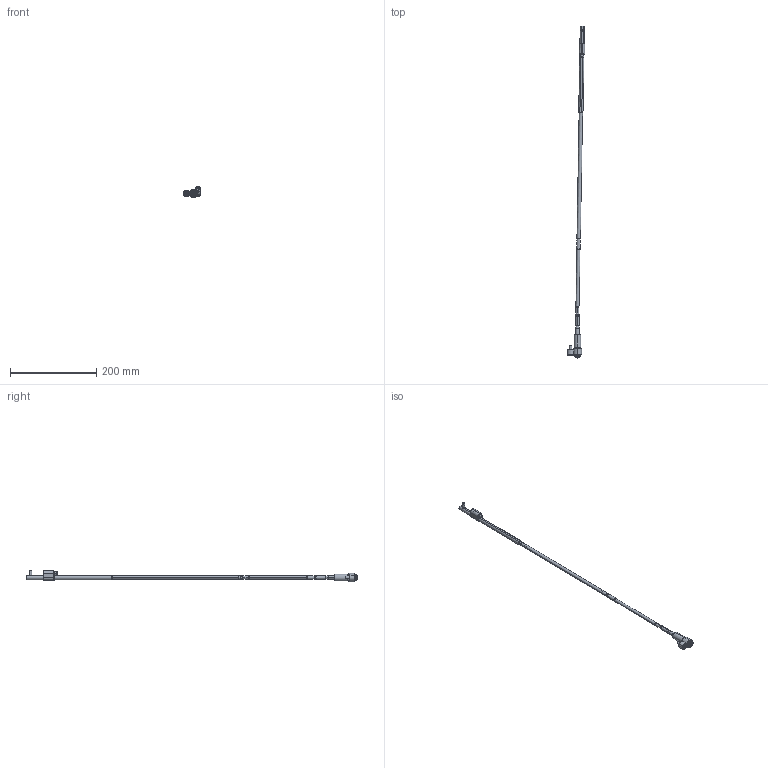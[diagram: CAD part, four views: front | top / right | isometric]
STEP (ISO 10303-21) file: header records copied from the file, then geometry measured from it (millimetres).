
FILE_DESCRIPTION (( 'STEP AP214' ), '1' );
FILE_NAME ('WL080125-EJE 1°.STEP', '2021-03-19T15:28:46', ( '' ), ( '' ), 'SwSTEP 2.0', 'SolidWorks 2019', '' );
FILE_SCHEMA (( 'AUTOMOTIVE_DESIGN' ));
Length unit declared in the file: millimetre
Products named in the file (17): 1DIN912545_DIN 912 M5 x 50 --- 50C; WL080100-C; Web-WL08XX-A7_ON-WL080125-1; Web-WL08-F01; Web-WL08-A2; 1DIN912616_DIN 912 M6 x 16 --- 16C; 9DR2206-TOR; Web-WL08-A1; WL080100-D; WL080100-E; Web-WP08-1; WL080100-B1_WL0800FF-1; WL080125-EJE 1°; 3IMAN4X2-150_con sello; WL080100-B_WL0800FF; Web-WL08-A3; Web-WL08-F00.SLDPRT
Assembly tree (16 placements, depth 3):
  WL080125-EJE 1°
    Web-WP08-1
    Web-WL08XX-A7_ON-WL080125-1
    Web-WL08-A3
    Web-WL08-A2
    Web-WL08-A1
    WL080100-D
    WL080100-C
    WL080100-B_WL0800FF
      WL080100-B1_WL0800FF-1
      3IMAN4X2-150_con sello
    WL080100-E
    9DR2206-TOR
    Web-WL08-F00.SLDPRT
      Web-WL08-F01
      1DIN912545_DIN 912 M5 x 50 --- 50C
      1DIN912616_DIN 912 M6 x 16 --- 16C
Bounding box: 41.11 x 771.99 x 26.9 mm (x, y, z)
Volume: 58701.8 mm3; surface area: 34416.1 mm2
Topology: 15 solids, 15 shells, 424 faces, 888 edges, 516 vertices
Faces by surface type: plane 132, cylinder 128, cone 116, torus 48
Entity records: 13492 total; most frequent: DIRECTION 2218, CARTESIAN_POINT 2045, ORIENTED_EDGE 1756, AXIS2_PLACEMENT_3D 921, EDGE_CURVE 878, VERTEX_POINT 516, CIRCLE 476, EDGE_LOOP 468
